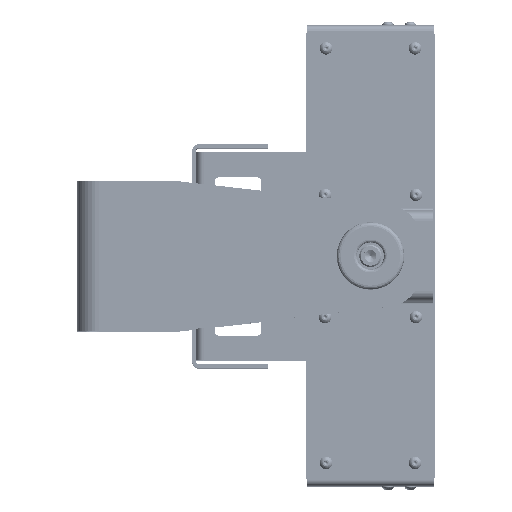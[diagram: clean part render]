
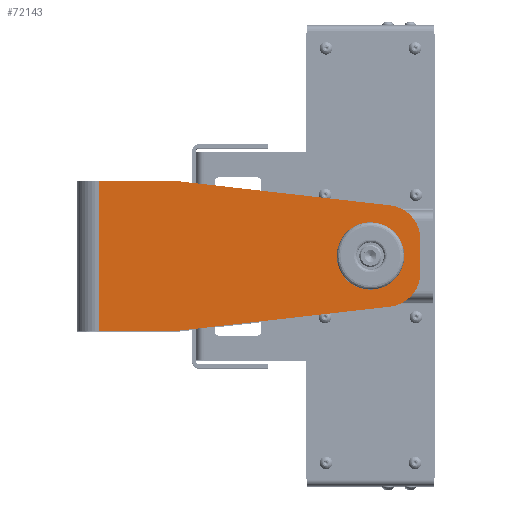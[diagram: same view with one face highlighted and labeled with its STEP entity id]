
A CAD part, top view. The second image highlights one B-rep face of the part: STEP entity #72143.
In plain terms, the highlighted planar face has unit normal (0, 0, 1) as drawn and (-1, 0, 0) by its records, which use the part's own axes.
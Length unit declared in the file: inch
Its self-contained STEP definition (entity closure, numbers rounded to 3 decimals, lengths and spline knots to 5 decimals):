
#229 = DIRECTION ( 'NONE',  ( 0., -1., 0. ) ) ;
#1667 = VECTOR ( 'NONE', #78803, 39.37008 ) ;
#2203 = ORIENTED_EDGE ( 'NONE', *, *, #81724, .F. ) ;
#3082 = DIRECTION ( 'NONE',  ( 0., -0.994, 0.113 ) ) ;
#3727 = LINE ( 'NONE', #38398, #1667 ) ;
#4202 = DIRECTION ( 'NONE',  ( 0., -0.866, -0.5 ) ) ;
#4265 = FACE_BOUND ( 'NONE', #44592, .T. ) ;
#5675 = EDGE_CURVE ( 'NONE', #68936, #9402, #46048, .T. ) ;
#8916 = AXIS2_PLACEMENT_3D ( 'NONE', #20966, #67777, #27707 ) ;
#9402 = VERTEX_POINT ( 'NONE', #73738 ) ;
#9815 = CARTESIAN_POINT ( 'NONE',  ( -6.01, -6.44278, -1.05002 ) ) ;
#10176 = CARTESIAN_POINT ( 'NONE',  ( -6.01, -5.955, -0.68705 ) ) ;
#11246 = VECTOR ( 'NONE', #25538, 39.37008 ) ;
#11950 = DIRECTION ( 'NONE',  ( 0., -1., 0. ) ) ;
#12020 = CARTESIAN_POINT ( 'NONE',  ( -6.01, -0.285, 0.34738 ) ) ;
#15025 = LINE ( 'NONE', #9815, #66325 ) ;
#15515 = EDGE_CURVE ( 'NONE', #26110, #56192, #17678, .T. ) ;
#15633 = CARTESIAN_POINT ( 'NONE',  ( -6.01, -6.28391, 1.5625 ) ) ;
#16605 = LINE ( 'NONE', #66196, #70027 ) ;
#16959 = EDGE_CURVE ( 'NONE', #76973, #68936, #84602, .T. ) ;
#17481 = EDGE_CURVE ( 'NONE', #73112, #39449, #19659, .T. ) ;
#17678 = CIRCLE ( 'NONE', #8916, 0.71609 ) ;
#17736 = CARTESIAN_POINT ( 'NONE',  ( -6.01, -5.36, -0.34352 ) ) ;
#18780 = VERTEX_POINT ( 'NONE', #61648 ) ;
#19659 = LINE ( 'NONE', #86807, #68846 ) ;
#20079 = LINE ( 'NONE', #17736, #55640 ) ;
#20292 = ORIENTED_EDGE ( 'NONE', *, *, #66811, .F. ) ;
#20512 = LINE ( 'NONE', #82074, #36124 ) ;
#20966 = CARTESIAN_POINT ( 'NONE',  ( -6.01, -6.28391, 0.34738 ) ) ;
#21244 = CARTESIAN_POINT ( 'NONE',  ( -6.01, -6.3648, -1.05888 ) ) ;
#23267 = CARTESIAN_POINT ( 'NONE',  ( -6.01, -7., 0.34738 ) ) ;
#23621 = CARTESIAN_POINT ( 'NONE',  ( -6.01, -6.28391, 0.34738 ) ) ;
#24198 = PLANE ( 'NONE',  #43844 ) ;
#25113 = EDGE_CURVE ( 'NONE', #9402, #86094, #15025, .T. ) ;
#25227 = ORIENTED_EDGE ( 'NONE', *, *, #60990, .T. ) ;
#25538 = DIRECTION ( 'NONE',  ( 0., 0., -1. ) ) ;
#26110 = VERTEX_POINT ( 'NONE', #23267 ) ;
#27629 = CARTESIAN_POINT ( 'NONE',  ( -6.01, -5.955, -0.68705 ) ) ;
#27707 = DIRECTION ( 'NONE',  ( 0., -1., 0. ) ) ;
#28275 = AXIS2_PLACEMENT_3D ( 'NONE', #80467, #40332, #229 ) ;
#28311 = VECTOR ( 'NONE', #11950, 39.37008 ) ;
#30912 = DIRECTION ( 'NONE',  ( 0., -1., 0. ) ) ;
#30960 = EDGE_CURVE ( 'NONE', #34232, #74883, #3727, .T. ) ;
#32269 = CARTESIAN_POINT ( 'NONE',  ( -6.01, -6.55, 0.34352 ) ) ;
#34232 = VERTEX_POINT ( 'NONE', #32269 ) ;
#34270 = CARTESIAN_POINT ( 'NONE',  ( -6.01, -6.3648, 1.05888 ) ) ;
#35198 = DIRECTION ( 'NONE',  ( 0., 0.866, -0.5 ) ) ;
#35968 = VERTEX_POINT ( 'NONE', #27629 ) ;
#36124 = VECTOR ( 'NONE', #35198, 39.37008 ) ;
#36809 = DIRECTION ( 'NONE',  ( 0., -0.866, 0.5 ) ) ;
#36986 = CARTESIAN_POINT ( 'NONE',  ( -6.01, -6.55, -0.34352 ) ) ;
#38228 = VECTOR ( 'NONE', #40963, 39.37008 ) ;
#38398 = CARTESIAN_POINT ( 'NONE',  ( -6.01, -6.55, 0.34352 ) ) ;
#39231 = DIRECTION ( 'NONE',  ( 0., 0., 1. ) ) ;
#39309 = EDGE_CURVE ( 'NONE', #56192, #18780, #56084, .T. ) ;
#39449 = VERTEX_POINT ( 'NONE', #63736 ) ;
#39753 = LINE ( 'NONE', #36986, #73343 ) ;
#40332 = DIRECTION ( 'NONE',  ( -1., 0., 0. ) ) ;
#40963 = DIRECTION ( 'NONE',  ( 0., 0.994, 0.113 ) ) ;
#40998 = VECTOR ( 'NONE', #36809, 39.37008 ) ;
#43844 = AXIS2_PLACEMENT_3D ( 'NONE', #23621, #71016, #30912 ) ;
#44583 = EDGE_LOOP ( 'NONE', ( #25227, #75720, #51883, #79160, #77822, #66722, #62881, #51573 ) ) ;
#44592 = EDGE_LOOP ( 'NONE', ( #20292, #2203, #60429, #47582, #54580, #83561 ) ) ;
#46048 = LINE ( 'NONE', #65526, #28311 ) ;
#47063 = VECTOR ( 'NONE', #82632, 39.37008 ) ;
#47142 = CARTESIAN_POINT ( 'NONE',  ( -6.01, -6.55, -0.34352 ) ) ;
#47582 = ORIENTED_EDGE ( 'NONE', *, *, #58074, .F. ) ;
#49217 = EDGE_CURVE ( 'NONE', #69965, #34232, #39753, .T. ) ;
#51573 = ORIENTED_EDGE ( 'NONE', *, *, #39309, .T. ) ;
#51883 = ORIENTED_EDGE ( 'NONE', *, *, #5675, .T. ) ;
#52282 = EDGE_CURVE ( 'NONE', #86094, #72613, #62024, .T. ) ;
#54580 = ORIENTED_EDGE ( 'NONE', *, *, #30960, .F. ) ;
#54661 = CARTESIAN_POINT ( 'NONE',  ( -6.01, -0.285, 1.5625 ) ) ;
#55640 = VECTOR ( 'NONE', #4202, 39.37008 ) ;
#56084 = LINE ( 'NONE', #34270, #38228 ) ;
#56192 = VERTEX_POINT ( 'NONE', #77418 ) ;
#57220 = DIRECTION ( 'NONE',  ( 0., 0., 1. ) ) ;
#58074 = EDGE_CURVE ( 'NONE', #74883, #73112, #20512, .T. ) ;
#59955 = CARTESIAN_POINT ( 'NONE',  ( -6.01, -0.285, -1.5625 ) ) ;
#60429 = ORIENTED_EDGE ( 'NONE', *, *, #17481, .F. ) ;
#60990 = EDGE_CURVE ( 'NONE', #18780, #76973, #64837, .T. ) ;
#61648 = CARTESIAN_POINT ( 'NONE',  ( -6.01, -1.93493, 1.5625 ) ) ;
#62024 = CIRCLE ( 'NONE', #28275, 0.71609 ) ;
#62881 = ORIENTED_EDGE ( 'NONE', *, *, #15515, .T. ) ;
#63736 = CARTESIAN_POINT ( 'NONE',  ( -6.01, -5.36, -0.34352 ) ) ;
#64837 = LINE ( 'NONE', #15633, #47063 ) ;
#65526 = CARTESIAN_POINT ( 'NONE',  ( -6.01, -6.28391, -1.5625 ) ) ;
#66196 = CARTESIAN_POINT ( 'NONE',  ( -6.01, -7., 0.34738 ) ) ;
#66325 = VECTOR ( 'NONE', #3082, 39.37008 ) ;
#66722 = ORIENTED_EDGE ( 'NONE', *, *, #74975, .T. ) ;
#66811 = EDGE_CURVE ( 'NONE', #35968, #69965, #76666, .T. ) ;
#67777 = DIRECTION ( 'NONE',  ( -1., 0., 0. ) ) ;
#68846 = VECTOR ( 'NONE', #73382, 39.37008 ) ;
#68936 = VERTEX_POINT ( 'NONE', #59955 ) ;
#69965 = VERTEX_POINT ( 'NONE', #47142 ) ;
#70027 = VECTOR ( 'NONE', #39231, 39.37008 ) ;
#71016 = DIRECTION ( 'NONE',  ( -1., 0., 0. ) ) ;
#72143 = ADVANCED_FACE ( 'NONE', ( #4265, #75553 ), #24198, .T. ) ;
#72613 = VERTEX_POINT ( 'NONE', #73428 ) ;
#73112 = VERTEX_POINT ( 'NONE', #80622 ) ;
#73343 = VECTOR ( 'NONE', #57220, 39.37008 ) ;
#73382 = DIRECTION ( 'NONE',  ( 0., 0., -1. ) ) ;
#73428 = CARTESIAN_POINT ( 'NONE',  ( -6.01, -7., -0.34738 ) ) ;
#73738 = CARTESIAN_POINT ( 'NONE',  ( -6.01, -1.93493, -1.5625 ) ) ;
#74883 = VERTEX_POINT ( 'NONE', #84658 ) ;
#74975 = EDGE_CURVE ( 'NONE', #72613, #26110, #16605, .T. ) ;
#75553 = FACE_OUTER_BOUND ( 'NONE', #44583, .T. ) ;
#75720 = ORIENTED_EDGE ( 'NONE', *, *, #16959, .T. ) ;
#76666 = LINE ( 'NONE', #10176, #40998 ) ;
#76973 = VERTEX_POINT ( 'NONE', #54661 ) ;
#77418 = CARTESIAN_POINT ( 'NONE',  ( -6.01, -6.3648, 1.05888 ) ) ;
#77822 = ORIENTED_EDGE ( 'NONE', *, *, #52282, .T. ) ;
#78803 = DIRECTION ( 'NONE',  ( 0., 0.866, 0.5 ) ) ;
#79160 = ORIENTED_EDGE ( 'NONE', *, *, #25113, .T. ) ;
#80467 = CARTESIAN_POINT ( 'NONE',  ( -6.01, -6.28391, -0.34738 ) ) ;
#80622 = CARTESIAN_POINT ( 'NONE',  ( -6.01, -5.36, 0.34352 ) ) ;
#81724 = EDGE_CURVE ( 'NONE', #39449, #35968, #20079, .T. ) ;
#82074 = CARTESIAN_POINT ( 'NONE',  ( -6.01, -5.955, 0.68705 ) ) ;
#82632 = DIRECTION ( 'NONE',  ( 0., 1., 0. ) ) ;
#83561 = ORIENTED_EDGE ( 'NONE', *, *, #49217, .F. ) ;
#84602 = LINE ( 'NONE', #12020, #11246 ) ;
#84658 = CARTESIAN_POINT ( 'NONE',  ( -6.01, -5.955, 0.68705 ) ) ;
#86094 = VERTEX_POINT ( 'NONE', #21244 ) ;
#86807 = CARTESIAN_POINT ( 'NONE',  ( -6.01, -5.36, 0.34352 ) ) ;
